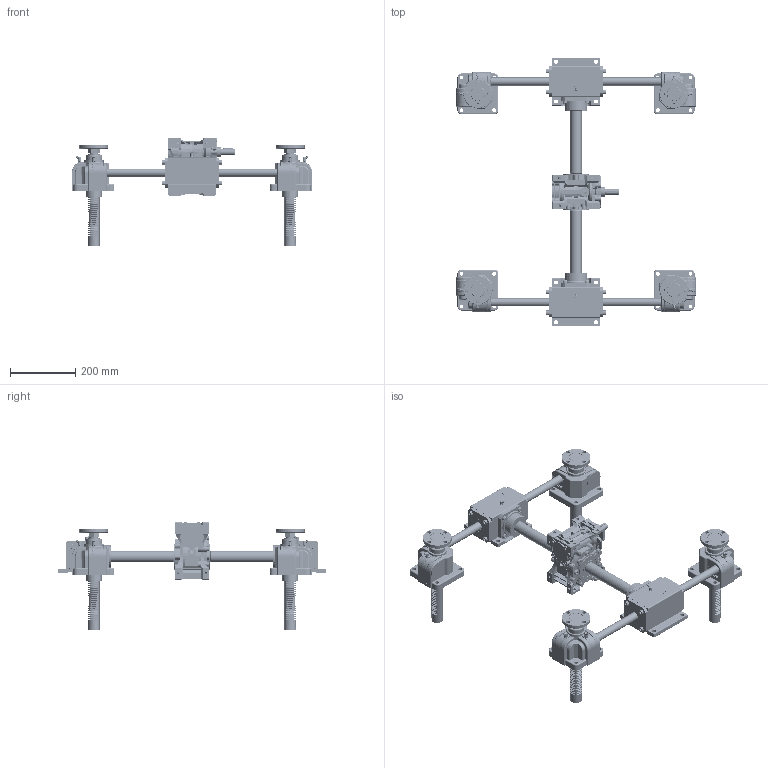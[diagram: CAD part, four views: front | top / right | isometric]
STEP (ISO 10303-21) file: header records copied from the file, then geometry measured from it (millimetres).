
FILE_DESCRIPTION(('STEP AP203'),'1');
FILE_NAME('SPMH1500F-600x600-300-150ST-063.stp','2016-08-08T01:28:44',(' '),(' '),'Spatial InterOp 3D',' ',' ');
FILE_SCHEMA(('CONFIG_CONTROL_DESIGN'));
Length unit declared in the file: millimetre
Products named in the file (103): SPMH1500F-600x600-300-150ST-063; Rack Gear(SP-1500F); Flange.1-Part; Flange.1; Joint.1; Nut.1; Flange.2-Part; Flange.2; Joint.2; Nut.2; Flange.3-Part; Flange.3; Joint.3; Nut.3; Flange.4-Part; Flange.4; Joint.4; Nut.4; Body.1-Part; Nipple; b6205zz; SnapRing-55Pie; Hole Cover.1(NSP-1500); Gear Box.1(NSP-1500); RJ05-4SCJ-610X600-100ST_CAP; LABEL-B.1; ___; 파트18; __ ; Body.2-Part; Hole Cover.2(NSP-1500); Gear Box.2(NSP-1500); Body.3-Part; Hole Cover.3(NSP-1500); Gear Box.3(NSP-1500); Body.4-Part; Hole Cover.4(NSP-1500); Gear Box.4(NSP-1500); Bevel Part-(BG05); BevelBoxCover1(BG05)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
Assembly tree (128 placements, depth 6):
  SPMH1500F-600x600-300-150ST-063
    Rack Gear(SP-1500F)  x4
    Flange.1-Part
      Flange.1
      Joint.1
      Nut.1
    Flange.2-Part
      Flange.2
      Joint.2
      Nut.2
    Flange.3-Part
      Flange.3
      Joint.3
      Nut.3
    Flange.4-Part
      Flange.4
      Joint.4
      Nut.4
    Body.1-Part
      Nipple
      Nipple
      b6205zz
      SnapRing-55Pie
      Hole Cover.1(NSP-1500)
      Gear Box.1(NSP-1500)
      __ 
        ___
          RJ05-4SCJ-610X600-100ST_CAP
            LABEL-B.1
          파트18
    Body.2-Part
      Nipple
      Nipple
      b6205zz
      SnapRing-55Pie
      Hole Cover.2(NSP-1500)
      Gear Box.2(NSP-1500)
      __ 
        ___
          RJ05-4SCJ-610X600-100ST_CAP
            LABEL-B.1
          파트18
    Body.3-Part
      Nipple
      Nipple
      b6205zz
      SnapRing-55Pie
      Hole Cover.3(NSP-1500)
      Gear Box.3(NSP-1500)
      __ 
        ___
          RJ05-4SCJ-610X600-100ST_CAP
            LABEL-B.1
          파트18
    Body.4-Part
      Nipple
      Nipple
      b6205zz
      SnapRing-55Pie
      Hole Cover.4(NSP-1500)
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Bounding box: 735.36 x 821.5 x 332 mm (x, y, z)
Volume: 7519408.6 mm3; surface area: 1744888.6 mm2
Topology: 143 solids, 207 shells, 16776 faces, 46892 edges, 30693 vertices
Faces by surface type: plane 13074, cylinder 2373, torus 416, bspline 226, revolution 210, cone 199, extrusion 190, sphere 88
Full cylindrical faces by diameter (mm): 3.087 x8, 4.8 x10, 4.917 x1, 6 x14, 6.4 x1, 6.647 x16, 7.26 x12, 7.8 x1, 8 x56, 8.5 x14, 9.5 x24, 9.886 x10, 10 x8, 12 x40, 13 x8, 14 x27, 19 x1, 24 x1, 25 x25, 26 x4, 27 x5, 28 x8, 30 x4, 32.5 x8, 35 x6, 36 x4, 37 x7, 38 x4, 39 x12, 39.4 x4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
Entity records: 516478 total; most frequent: CARTESIAN_POINT 120418, ORIENTED_EDGE 84060, DIRECTION 74576, EDGE_CURVE 42162, VECTOR 35934, LINE 35744, VERTEX_POINT 28037, AXIS2_PLACEMENT_3D 19216
